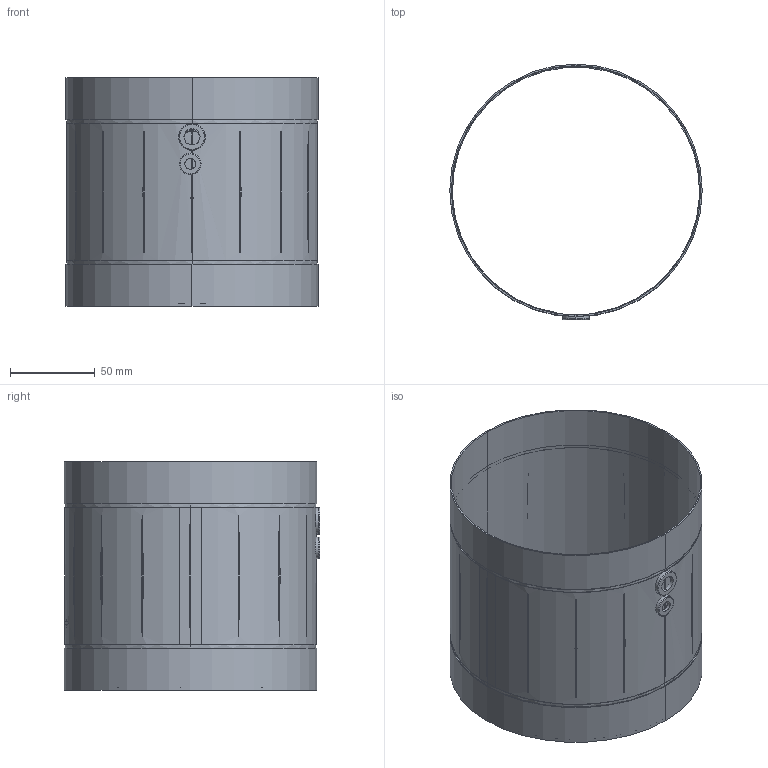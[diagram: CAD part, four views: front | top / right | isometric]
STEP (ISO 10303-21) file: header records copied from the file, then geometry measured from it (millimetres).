
FILE_DESCRIPTION (( 'STEP AP203' ), '1' );
FILE_NAME ('145668-00_EM125EC01.STEP', '2018-09-18T06:18:46', ( '' ), ( '' ), 'SwSTEP 2.0', 'SolidWorks 2017', '' );
FILE_SCHEMA (( 'CONFIG_CONTROL_DESIGN' ));
Length unit declared in the file: millimetre
Products named in the file (1): 145668-00_EM125EC01
Bounding box: 149 x 150.85 x 135 mm (x, y, z)
Surface area: 127679.9 mm2 (no closed solid volume)
Topology: 0 solids, 10 shells, 123 faces, 418 edges, 291 vertices
Faces by surface type: cylinder 51, bspline 39, plane 23, torus 6, cone 4
Entity records: 6053 total; most frequent: CARTESIAN_POINT 2888, ORIENTED_EDGE 613, DIRECTION 539, EDGE_CURVE 418, VERTEX_POINT 291, AXIS2_PLACEMENT_3D 232, B_SPLINE_CURVE_WITH_KNOTS 184, CIRCLE 147
